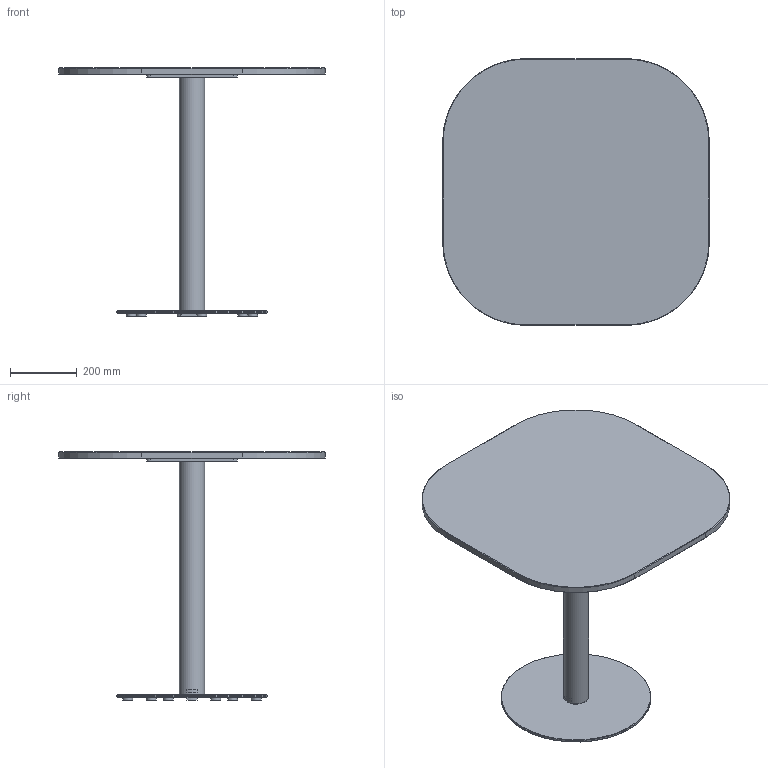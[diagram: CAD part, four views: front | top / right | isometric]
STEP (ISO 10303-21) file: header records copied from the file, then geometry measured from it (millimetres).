
FILE_DESCRIPTION( ('This file contains a STEP AP42 implementation' ,'as created by ZW3D STEP Interface translator.') ,'2;1' );
FILE_NAME( 'Henri - B_Rond - F2 - M1 - 800 x 800 x 750.stp' ,'24 912.1526 9', (''), ('ZWCAD Software Co.'), 'Version 1.0', 'ZW3D to STEP translator', '' );
FILE_SCHEMA(('AUTOMOTIVE_DESIGN { 1 0 10303 214 1 1 1 1 }'));
Length unit declared in the file: millimetre
Products named in the file (14): 0; PIED BISTROT PARAMETRIQUE_; COLONNE ACIER Ø76 V.02_; TUB-D076-02_; PLA-R76B-01_; SOCLE ACIER C Ø450 V.02_; SCL-D450-02_; PLA-R30A-01_; PLA-R30A-01; CROIX ACIER 370 V.02_; CRX-X370-02_; WUERTH 0276063020 Euro-screw 6.3x2 Verzinkt_; PLATEAU BISTROT PARAMETRIQUE_; insert_m6_13_
Assembly tree (24 placements, depth 3):
  0
  PIED BISTROT PARAMETRIQUE_
    COLONNE ACIER Ø76 V.02_
      TUB-D076-02_
      PLA-R76B-01_  x2
    SOCLE ACIER C Ø450 V.02_
      SCL-D450-02_
      PLA-R30A-01_
      PLA-R30A-01  x5
    CROIX ACIER 370 V.02_
      CRX-X370-02_
    WUERTH 0276063020 Euro-screw 6.3x2 Verzinkt_
    PLATEAU BISTROT PARAMETRIQUE_
      insert_m6_13_  x8
Bounding box: 800 x 800 x 744 mm (x, y, z)
Volume: 13943124.2 mm3; surface area: 2077976.3 mm2
Topology: 21 solids, 21 shells, 524 faces, 1273 edges, 802 vertices
Faces by surface type: plane 254, bspline 121, cylinder 99, cone 49, torus 1
Full cylindrical faces by diameter (mm): 4.88 x1, 6 x8, 6.3 x1, 8 x47, 12 x2, 14 x2, 30 x6, 72 x1, 76 x1, 450 x1
Entity records: 11734 total; most frequent: CARTESIAN_POINT 3302, ORIENTED_EDGE 1526, DIRECTION 1424, EDGE_CURVE 763, VERTEX_POINT 490, VECTOR 476, LINE 476, AXIS2_PLACEMENT_3D 474
